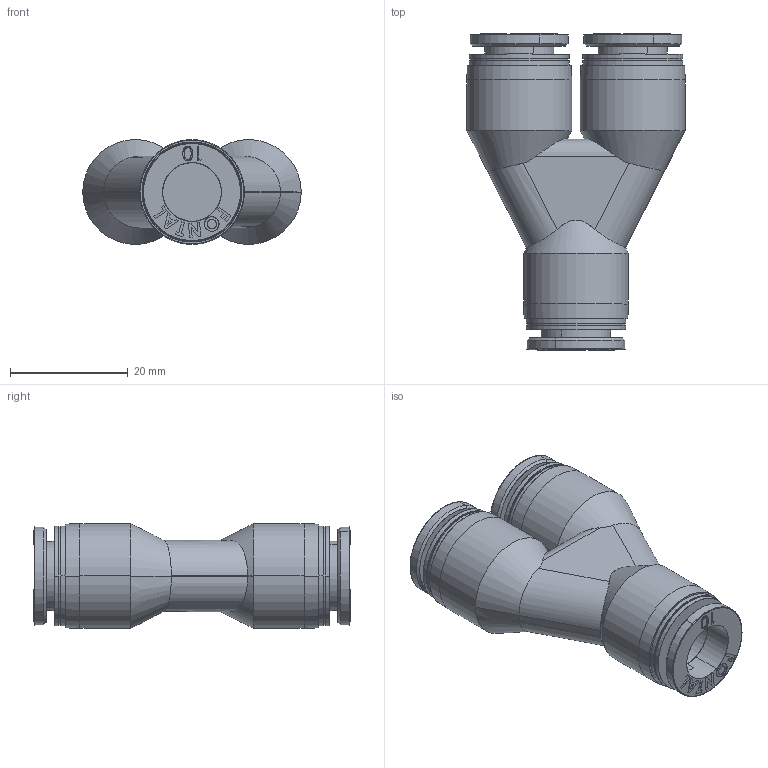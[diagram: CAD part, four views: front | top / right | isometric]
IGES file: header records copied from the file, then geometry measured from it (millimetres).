
Start section: SolidWorks IGES file using analytic representation for surfaces
Global section: file name: D:\Custom\3D繪製\ADDITIONAL\FPY\FPY10.IGS, ; native system: SolidWorks 2014; preprocessor: SolidWorks 2014; author: Chieh_Lu; date: 160115.050925; units: millimetre
Bounding box: 37.15 x 53.8 x 17.85 mm (x, y, z)
Surface area: 8109.9 mm2 (no closed solid volume)
Topology: 0 solids, 0 shells, 362 faces, 4593 edges, 4593 vertices
Faces by surface type: bspline 282, revolution 80
